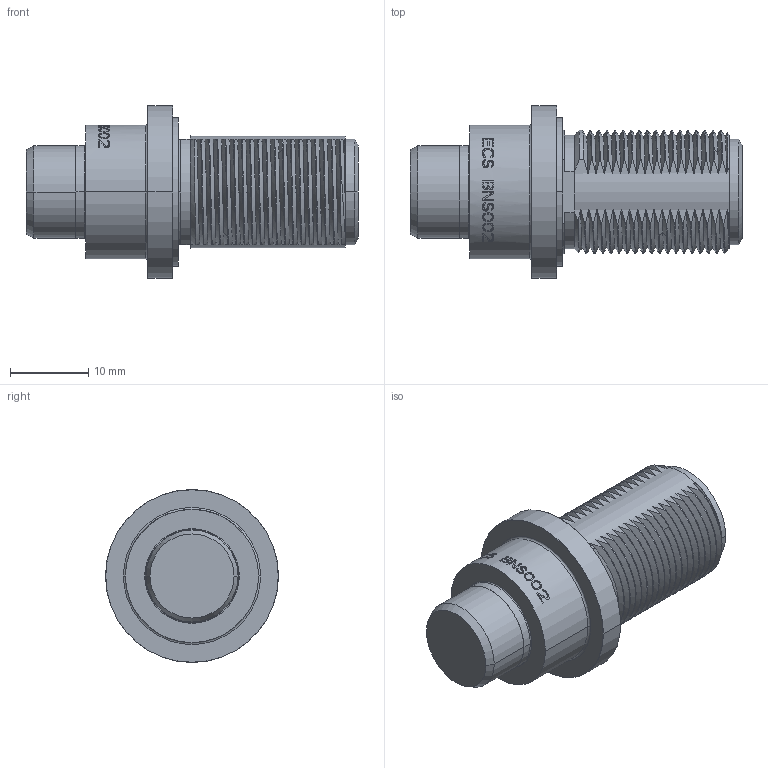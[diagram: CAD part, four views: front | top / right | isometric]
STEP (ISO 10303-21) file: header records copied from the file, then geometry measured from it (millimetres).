
FILE_DESCRIPTION((''),'2;1');
FILE_NAME('PRT0004','2020-02-11T15:05:22',('Anthony.Gnas'),('Carlisle Interconnect Technologies'),'CREO PARAMETRIC BY PTC INC, 2017260','CREO PARAMETRIC BY PTC INC, 2017260','');
FILE_SCHEMA(('AUTOMOTIVE_DESIGN { 1 0 10303 214 1 1 1 1 }'));
Length unit declared in the file: inch
Products named in the file (1): PRT0004
Bounding box: 42.42 x 22.1 x 22.1 mm (x, y, z)
Volume: 7260.6 mm3; surface area: 4873.7 mm2
Topology: 1 solids, 2 shells, 592 faces, 1668 edges, 1093 vertices
Faces by surface type: bspline 325, plane 115, cylinder 96, cone 25, extrusion 25, torus 6
Entity records: 34799 total; most frequent: CARTESIAN_POINT 16304, ORIENTED_EDGE 3328, DIRECTION 2358, EDGE_CURVE 1666, VERTEX_POINT 1093, AXIS2_PLACEMENT_3D 798, VECTOR 762, LINE 737
